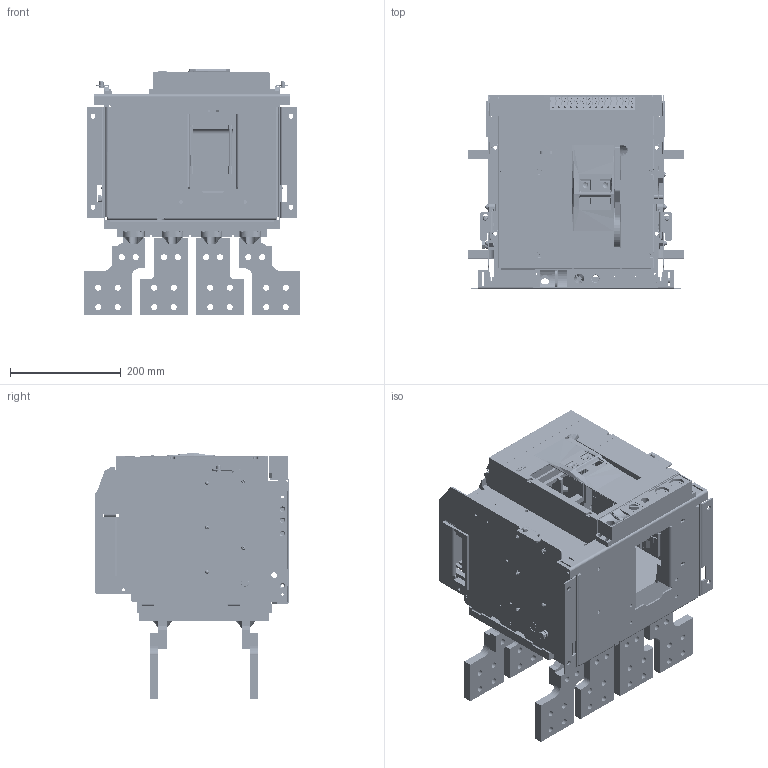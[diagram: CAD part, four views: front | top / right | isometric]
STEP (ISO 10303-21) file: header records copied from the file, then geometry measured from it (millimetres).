
FILE_DESCRIPTION((''),'2;1');
FILE_NAME('NA8G-1600-1600-DO-4P-H_ASM','2019-05-31T15:13:54',('lcc'),(''),'CREO PARAMETRIC BY PTC INC, 2018020','CREO PARAMETRIC BY PTC INC, 2018020','');
FILE_SCHEMA(('CONFIG_CONTROL_DESIGN','SHAPE_APPEARANCE_LAYERS_GROUPS'));
Products named in the file (54): 8-024-498; 8-300-164; 8-141-125; 8ZTD-860-349-2; 8-441-081; 5ZTD-024-170_ASM; 8-050-244; 8-960-058; 8-960-056; 8-960-057; 8-960-060; 8-960-059; 8-127-020; 8-125-057; 8-123-120; 8-261-001; 8-125-001; 8-210-176; 5-124-010_ASM; 8-233-301; GBT97_1-4; GBT93-4; GBT818-M4X10; GBT845-ST4_2X9_5C; GBT6170-M8; 5-050-095_ASM; 8-050-243; 8-261-002; 8-125-002; 5-124-011_ASM; GBT97_1-8; GBT93-8; GBT5783-M8X16; 5-050-096_ASM; 8-300-163; 8-015-020; 8ZTD-043-780; 8ZTD-043-781; 8-300-162-2; 8-005-238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
Assembly tree (112 placements, depth 4):
  NA8G-1600-1600-DO-4P-H_ASM
    5ZTD-024-170_ASM
      8-024-498
      8-300-164
      8-141-125
      8ZTD-860-349-2
      8-441-081
    5-050-095_ASM
      8-050-244
      8-960-058
      8-960-056
      8-960-057
      8-960-060
      8-960-059
      8-127-020
      8-125-057
      8-123-120
      5-124-010_ASM
        8-261-001
        8-125-001
        8-210-176
      8-233-301
      GBT97_1-4  x5
      GBT93-4  x5
      GBT818-M4X10  x5
      GBT845-ST4_2X9_5C
      GBT6170-M8  x2
    5-050-096_ASM
      8-050-243
      8-125-057
      8-123-120
      5-124-011_ASM
        8-261-002
        8-125-002
        8-210-176
      GBT6170-M8  x2
      GBT97_1-4  x5
      GBT93-4  x5
      GBT818-M4X10  x5
      GBT97_1-8  x2
      GBT93-8
      GBT5783-M8X16
    8-300-163
    8-015-020
    8ZTD-043-780
    8ZTD-043-781
    8-300-162-2
    8-005-238
    8-253-348
    8-253-349
    8-253-309
    5-235-147
    1600-DUANZI-CTS_ASM
      8ZTD-064-138
      8ZTD-024-689  x14
      8ZTD-860-511
    1600-DIJIA-4P
    8ZTD-580-187-1  x4
    8ZTD-580-188-1  x4
    8-580-209  x4
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Bounding box: 388 x 351 x 445 mm (x, y, z)
Volume: 9436574 mm3; surface area: 2332537.1 mm2
Topology: 106 solids, 166 shells, 7904 faces, 21610 edges, 14213 vertices
Faces by surface type: plane 5809, cylinder 1836, cone 134, bspline 50, torus 42, sphere 32, extrusion 1
Entity records: 206172 total; most frequent: CARTESIAN_POINT 30448, ORIENTED_EDGE 27750, DIRECTION 27072, EDGE_CURVE 13886, PRESENTATION_STYLE_ASSIGNMENT 12962, STYLED_ITEM 12925, CURVE_STYLE 12216, VECTOR 10890
